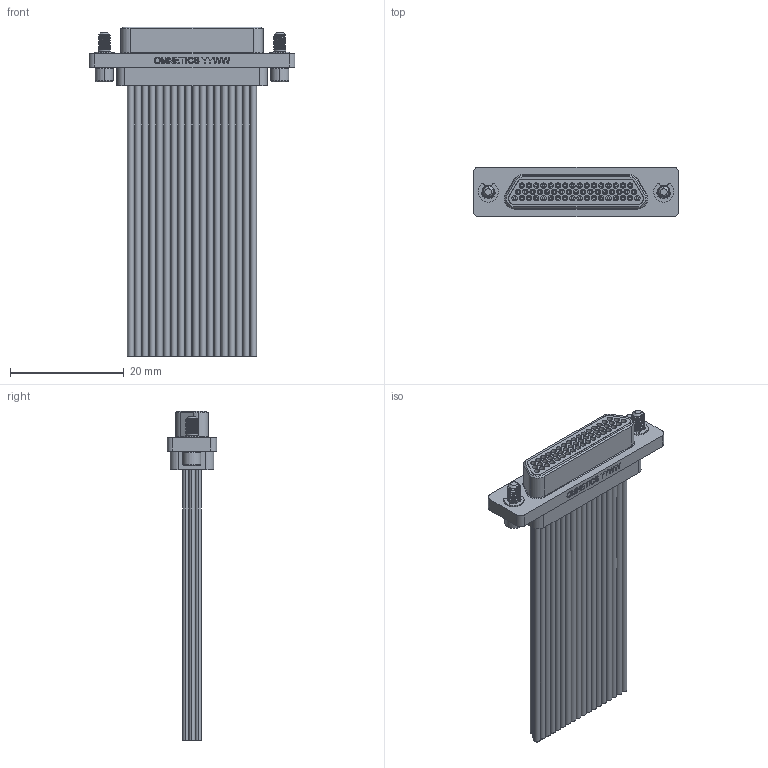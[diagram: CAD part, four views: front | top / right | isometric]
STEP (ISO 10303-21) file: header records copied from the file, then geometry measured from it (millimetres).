
FILE_DESCRIPTION (( 'STEP AP214' ), '1' );
FILE_NAME ('A98101-513 REV A.STEP', '2021-02-04T20:12:32', ( '' ), ( '' ), 'SwSTEP 2.0', 'SolidWorks 2019', '' );
FILE_SCHEMA (( 'AUTOMOTIVE_DESIGN' ));
Length unit declared in the file: inch
Products named in the file (1): A98101-513 REV A
Bounding box: 36.2 x 8.72 x 57.94 mm (x, y, z)
Volume: 4092.3 mm3; surface area: 12026.8 mm2
Topology: 1 solids, 3 shells, 1207 faces, 2692 edges, 1712 vertices
Faces by surface type: cylinder 609, plane 414, cone 119, bspline 60, torus 5
Entity records: 53548 total; most frequent: CARTESIAN_POINT 10404, DIRECTION 6043, ORIENTED_EDGE 5372, EDGE_CURVE 2686, AXIS2_PLACEMENT_3D 2387, VERTEX_POINT 1712, EDGE_LOOP 1448, LINE 1269
